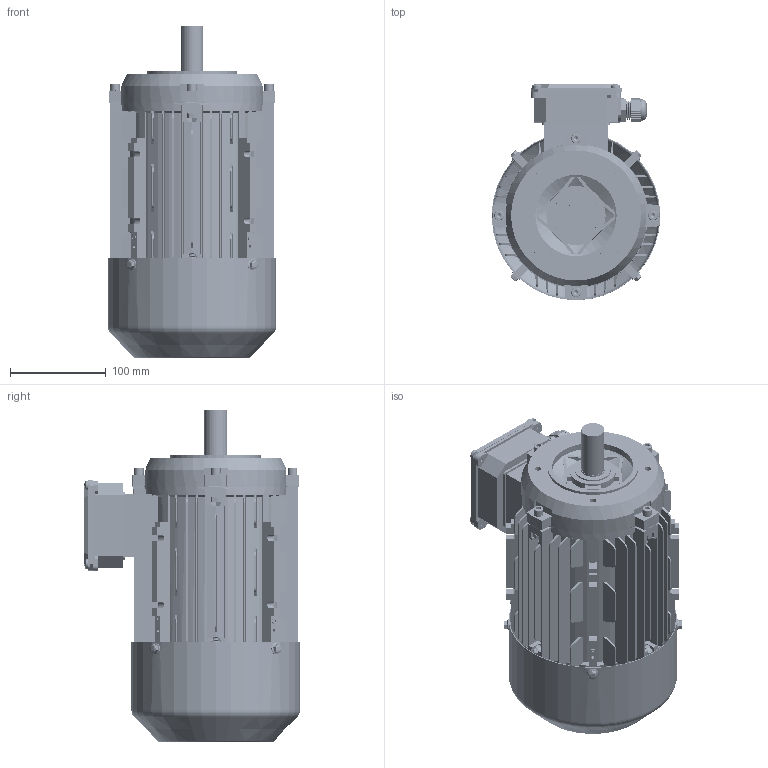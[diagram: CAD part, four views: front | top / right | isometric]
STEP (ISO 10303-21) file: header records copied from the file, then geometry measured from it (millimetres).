
FILE_DESCRIPTION (( 'STEP AP203' ), '1' );
FILE_NAME ('ME3-90LB14 3D.STEP', '2024-06-06T08:51:41', ( 'User' ), ( 'China' ), 'SwSTEP 2.0', 'SolidWorks 2018', '' );
FILE_SCHEMA (( 'CONFIG_CONTROL_DESIGN' ));
Length unit declared in the file: millimetre
Products named in the file (18): hex nuts, style 2-grades ab gb_GB_HEXAGON_TYPE13 M6 Normal Style-C; 8.034.09005ME2-90L儂褲; 8.306.09004ME2-90瑞欶; 8.014.09012加长后盖（铁）; hex flange bolts-heavy grade b gb_GB_FASTENER_BOLT_HFBB M5X10-C; deep groove ball bearings gb_Rolling bearings 6205 GB 276-94; cross recessed pan head screws gb_GB_CROSS_SCREWS_TYPE1 M5X8-8  H type-S; 8.200.09005ME2L 蛌粣; MS63-71諉盄碟裔; MS63-71諉盄碟菁釱; 蚐猾37X25X7; 蹟杶郋M20X1.5; 蹟簸M20X1.5; 8.013.09013 ME2 90B14瑞盖; 黑芛20X1.5; spring lock washers--normal type gb_GB_FASTENER_WASHER_SW 6; hexagon socket head cap screws gb_GB_FASTENER_SCREWS_HSHCS M6X30-S; ME3-90LB14  3D
Assembly tree (44 placements, depth 2):
  ME3-90LB14  3D
    8.034.09005ME2-90L儂褲
    8.014.09012加长后盖（铁）
    deep groove ball bearings gb_Rolling bearings 6205 GB 276-94  x2
    8.200.09005ME2L 蛌粣
    MS63-71諉盄碟菁釱
    蹟杶郋M20X1.5
    蹟簸M20X1.5
    黑芛20X1.5
    hexagon socket head cap screws gb_GB_FASTENER_SCREWS_HSHCS M6X30-S  x8
    hex nuts, style 2-grades ab gb_GB_HEXAGON_TYPE13 M6 Normal Style-C  x7
    8.306.09004ME2-90瑞欶
    hex flange bolts-heavy grade b gb_GB_FASTENER_BOLT_HFBB M5X10-C  x4
    cross recessed pan head screws gb_GB_CROSS_SCREWS_TYPE1 M5X8-8  H type-S  x8
    MS63-71諉盄碟裔
    蚐猾37X25X7
    8.013.09013 ME2 90B14瑞盖
    spring lock washers--normal type gb_GB_FASTENER_WASHER_SW 6  x4
Bounding box: 176.6 x 226.3 x 347.62 mm (x, y, z)
Volume: 1222851.6 mm3; surface area: 822677.2 mm2
Topology: 53 solids, 53 shells, 6660 faces, 16610 edges, 9966 vertices
Faces by surface type: plane 2367, cone 2201, cylinder 1690, bspline 170, torus 152, sphere 80
Entity records: 131406 total; most frequent: CARTESIAN_POINT 43047, ORIENTED_EDGE 19128, DIRECTION 16238, EDGE_CURVE 9564, VERTEX_POINT 6187, VECTOR 5576, LINE 5576, AXIS2_PLACEMENT_3D 5331
